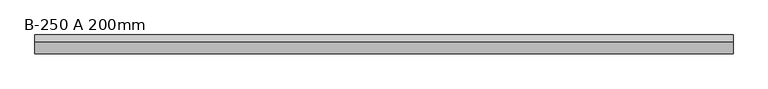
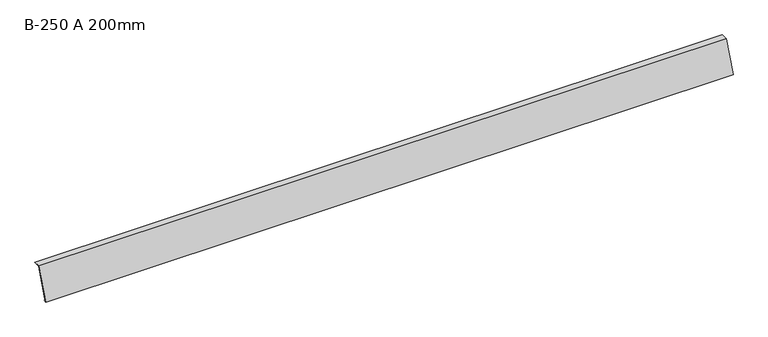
"""IFC4 building model written with IfcOpenShell, lengths in millimetres: proxy geometry, GROVIK_Flashing_Eaves : B-250 A 200mm."""

from ifc_helpers import new_model, si_unit, frame, origin, place, context, project, spatial, polyline, outline, extrude, source, transform, mapped, element, save


def b_250_a_200mm_5dbeaa59(model_context):
    return source(origin(), model_context, "Body", "SweptSolid", [
        extrude(outline(polyline([(-0.6918582, 0.9880759), (-72.247902, -185.4217912), (-62.5449447, -183.0025723), (-62.3030228, -183.972868), (-73.8699008, -186.8568146), (-1.3837164, 1.9761518), (38.9591553, 2.6803392), (38.9766077, 1.6804915), (-0.6918582, 0.9880759)])), frame((0.0, 0.0, 0.0), z_axis=(1.0, 0.0, 0.0), x_axis=(0.0, 1.0, 0.0)), (0.0, 0.0, 1.0), 4200.0),
    ])


if __name__ == "__main__":
    model = new_model("IFC4")
    model_context = context("Model", 3, world=origin())
    ifc_project = project(units=[si_unit("LENGTHUNIT", "METRE", prefix="MILLI")], contexts=[model_context])
    site = spatial("IfcSite", under=ifc_project)
    building = spatial("IfcBuilding", under=site)
    placement = place(None, origin())
    b_250_a_200mm_shape = b_250_a_200mm_5dbeaa59(model_context)
    element("IfcBuildingElementProxy", 1, Name="GROVIK_Flashing_Eaves : B-250 A 200mm", ObjectType="GROVIK_Flashing_Eaves : B-250 A 200mm", at=placement, inside=building, context=model_context, shape_type="MappedRepresentation", body=[
        mapped(b_250_a_200mm_shape, transform((0.0, 0.0, 0.0), x_axis=(1.0, 0.0, 0.0), y_axis=(0.0, 1.0, 0.0), z_axis=(0.0, 0.0, 1.0))),
    ])
    save(model, "model.ifc")
